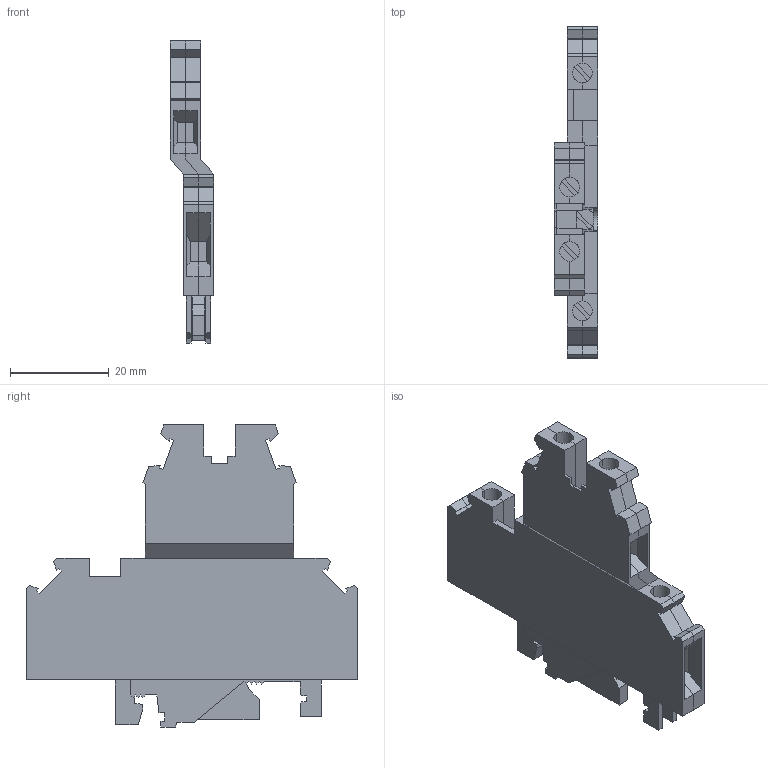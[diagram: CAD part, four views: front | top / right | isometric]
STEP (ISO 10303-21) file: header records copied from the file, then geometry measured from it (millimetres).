
FILE_DESCRIPTION(('Creo Elements/Direct Modeling STEP Export'),'2;1');
FILE_NAME('C:/Temp/JobServerData/JobServer Files/1ee4811e-80c7-4fb5-8a30-12bb00d1bcb8/work/output/model.stp','2023-03-03T14:11:55',(''),(''),'Creo Elements/Direct Modeling STEP processor for AP214 (Solid Model)','Creo Elements/Direct Modeling 20.1D 10-Oct-2020 (C) Parametric Technology GmbH','');
FILE_SCHEMA(('AUTOMOTIVE_DESIGN { 1 0 10303 214 1 1 1 1 }'));
Length unit declared in the file: millimetre
Products named in the file (2): UKKB_5_PE-Select
Assembly tree (1 placements, depth 2):
  UKKB_5_PE-Select
    UKKB_5_PE-Select
Bounding box: 8.75 x 67.15 x 61.15 mm (x, y, z)
Volume: 12517.1 mm3; surface area: 8780.7 mm2
Topology: 1 solids, 1 shells, 327 faces, 883 edges, 560 vertices
Faces by surface type: plane 315, cylinder 12
Entity records: 11914 total; most frequent: ORIENTED_EDGE 1768, CARTESIAN_POINT 1613, DIRECTION 1340, EDGE_CURVE 884, VECTOR 764, LINE 764, VERTEX_POINT 561, EDGE_LOOP 329
